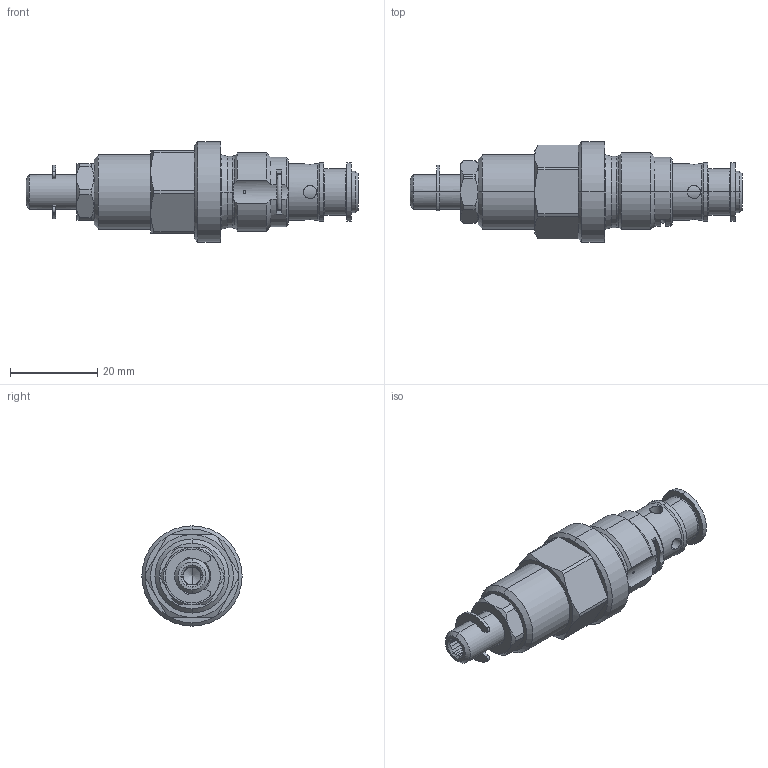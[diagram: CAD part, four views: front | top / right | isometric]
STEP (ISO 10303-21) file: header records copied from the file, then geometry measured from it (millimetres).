
FILE_DESCRIPTION (( 'STEP AP214' ), '1' );
FILE_NAME ('BSSPM18.STEP', '2021-08-17T11:26:52', ( '' ), ( '' ), 'SwSTEP 2.0', 'SolidWorks 2020', '' );
FILE_SCHEMA (( 'AUTOMOTIVE_DESIGN' ));
Length unit declared in the file: millimetre
Products named in the file (1): BSSPM18
Bounding box: 76.1 x 23 x 23 mm (x, y, z)
Volume: 14785.8 mm3; surface area: 4990.2 mm2
Topology: 1 solids, 1 shells, 198 faces, 482 edges, 295 vertices
Faces by surface type: cylinder 72, plane 67, cone 48, torus 11
Entity records: 8718 total; most frequent: CARTESIAN_POINT 1906, DIRECTION 985, ORIENTED_EDGE 960, EDGE_CURVE 480, AXIS2_PLACEMENT_3D 404, VERTEX_POINT 295, EDGE_LOOP 213, CIRCLE 205
